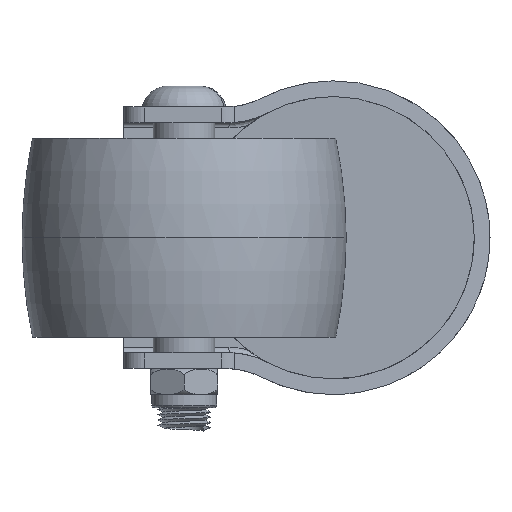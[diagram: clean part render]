
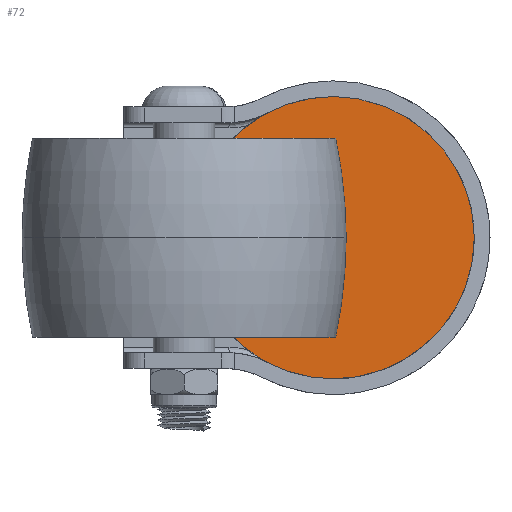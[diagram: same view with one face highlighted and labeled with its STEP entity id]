
A CAD part, front view. The second image highlights one B-rep face of the part: STEP entity #72.
In plain terms, the highlighted planar face has unit normal (0, -1, 0).
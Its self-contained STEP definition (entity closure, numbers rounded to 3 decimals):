
#72 = ADVANCED_FACE ( 'NONE', ( #2959 ), #12053, .F. ) ;
#90 = DIRECTION ( 'NONE',  ( 0., 1., 0. ) ) ;
#1014 = ORIENTED_EDGE ( 'NONE', *, *, #1670, .F. ) ;
#1609 = DIRECTION ( 'NONE',  ( 0., 0., 1. ) ) ;
#1670 = EDGE_CURVE ( 'NONE', #12564, #9470, #8429, .T. ) ;
#2959 = FACE_OUTER_BOUND ( 'NONE', #13634, .T. ) ;
#3910 = DIRECTION ( 'NONE',  ( 0., 1., 0. ) ) ;
#4995 = AXIS2_PLACEMENT_3D ( 'NONE', #6937, #15179, #1609 ) ;
#5066 = ORIENTED_EDGE ( 'NONE', *, *, #16635, .F. ) ;
#5508 = CARTESIAN_POINT ( 'NONE',  ( 0., 57., 0. ) ) ;
#6409 = CARTESIAN_POINT ( 'NONE',  ( 0., 57., 0. ) ) ;
#6937 = CARTESIAN_POINT ( 'NONE',  ( 0., 57., 0. ) ) ;
#7189 = AXIS2_PLACEMENT_3D ( 'NONE', #5508, #90, #9611 ) ;
#8429 = CIRCLE ( 'NONE', #4995, 27. ) ;
#9470 = VERTEX_POINT ( 'NONE', #17221 ) ;
#9611 = DIRECTION ( 'NONE',  ( 0., 0., 1. ) ) ;
#12053 = PLANE ( 'NONE',  #15348 ) ;
#12564 = VERTEX_POINT ( 'NONE', #16620 ) ;
#13425 = DIRECTION ( 'NONE',  ( 0., 0., 1. ) ) ;
#13634 = EDGE_LOOP ( 'NONE', ( #5066, #1014 ) ) ;
#15179 = DIRECTION ( 'NONE',  ( 0., 1., 0. ) ) ;
#15348 = AXIS2_PLACEMENT_3D ( 'NONE', #6409, #3910, #13425 ) ;
#16008 = CIRCLE ( 'NONE', #7189, 27. ) ;
#16620 = CARTESIAN_POINT ( 'NONE',  ( 0., 57., 27. ) ) ;
#16635 = EDGE_CURVE ( 'NONE', #9470, #12564, #16008, .T. ) ;
#17221 = CARTESIAN_POINT ( 'NONE',  ( 0., 57., -27. ) ) ;
